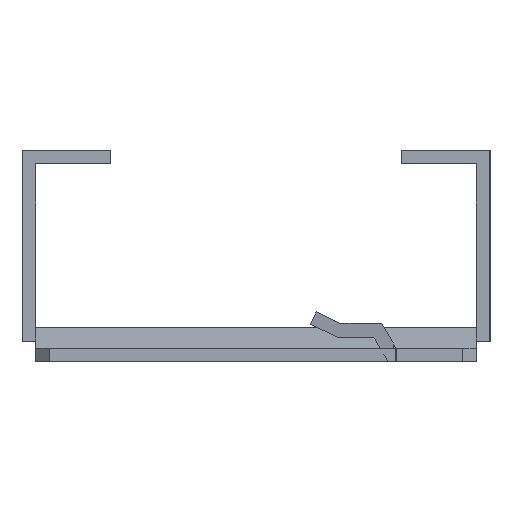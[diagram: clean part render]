
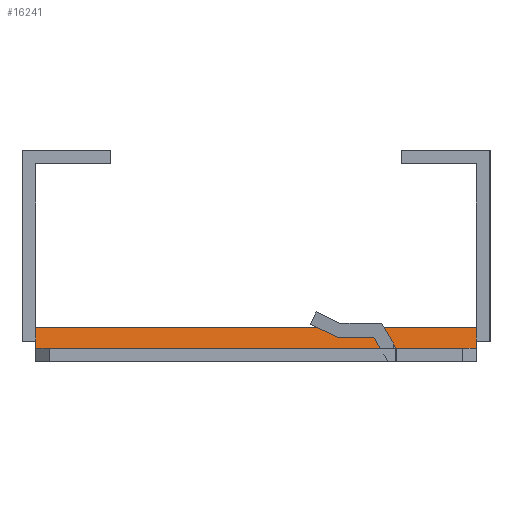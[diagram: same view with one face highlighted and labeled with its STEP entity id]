
A CAD part, left-side view. The second image highlights one B-rep face of the part: STEP entity #16241.
In plain terms, the highlighted planar face has unit normal (-0.447, 0, 0.894).
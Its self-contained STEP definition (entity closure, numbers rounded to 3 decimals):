
#2186=ORIENTED_EDGE('',*,*,#6530,.F.);
#2187=ORIENTED_EDGE('',*,*,#5138,.F.);
#2188=ORIENTED_EDGE('',*,*,#6152,.T.);
#2189=ORIENTED_EDGE('',*,*,#4983,.T.);
#4983=EDGE_CURVE('',#7182,#7187,#8775,.T.);
#5138=EDGE_CURVE('',#7325,#7326,#8854,.T.);
#6152=EDGE_CURVE('',#7325,#7182,#9724,.F.);
#6530=EDGE_CURVE('',#7326,#7187,#10030,.F.);
#7182=VERTEX_POINT('',#22334);
#7187=VERTEX_POINT('',#22343);
#7325=VERTEX_POINT('',#22648);
#7326=VERTEX_POINT('',#22650);
#8775=LINE('',#22344,#10699);
#8854=LINE('',#22649,#10778);
#9724=LINE('',#24675,#11648);
#10030=LINE('',#25421,#11954);
#10699=VECTOR('',#18202,1000.);
#10778=VECTOR('',#18457,1000.);
#11648=VECTOR('',#19627,1000.);
#11954=VECTOR('',#20093,1000.);
#13163=EDGE_LOOP('',(#2186,#2187,#2188,#2189));
#14673=FACE_BOUND('',#13163,.T.);
#15603=PLANE('',#17336);
#16241=ADVANCED_FACE('',(#14673),#15603,.T.);
#17336=AXIS2_PLACEMENT_3D('',#25426,#20100,#20101);
#18202=DIRECTION('',(0.,-1.,0.));
#18457=DIRECTION('',(0.,-1.,0.));
#19627=DIRECTION('',(0.894,0.,0.447));
#20093=DIRECTION('',(0.894,0.,0.447));
#20100=DIRECTION('',(-0.447,0.,0.894));
#20101=DIRECTION('',(0.894,0.,0.447));
#22334=CARTESIAN_POINT('',(-456.472,32.25,-1.));
#22343=CARTESIAN_POINT('',(-456.472,-32.25,-1.));
#22344=CARTESIAN_POINT('',(-456.472,32.25,-1.));
#22648=CARTESIAN_POINT('',(-450.472,32.25,2.));
#22649=CARTESIAN_POINT('',(-450.472,32.25,2.));
#22650=CARTESIAN_POINT('',(-450.472,-32.25,2.));
#24675=CARTESIAN_POINT('',(-450.894,32.25,1.789));
#25421=CARTESIAN_POINT('',(-450.894,-32.25,1.789));
#25426=CARTESIAN_POINT('',(-450.894,32.25,1.789));
